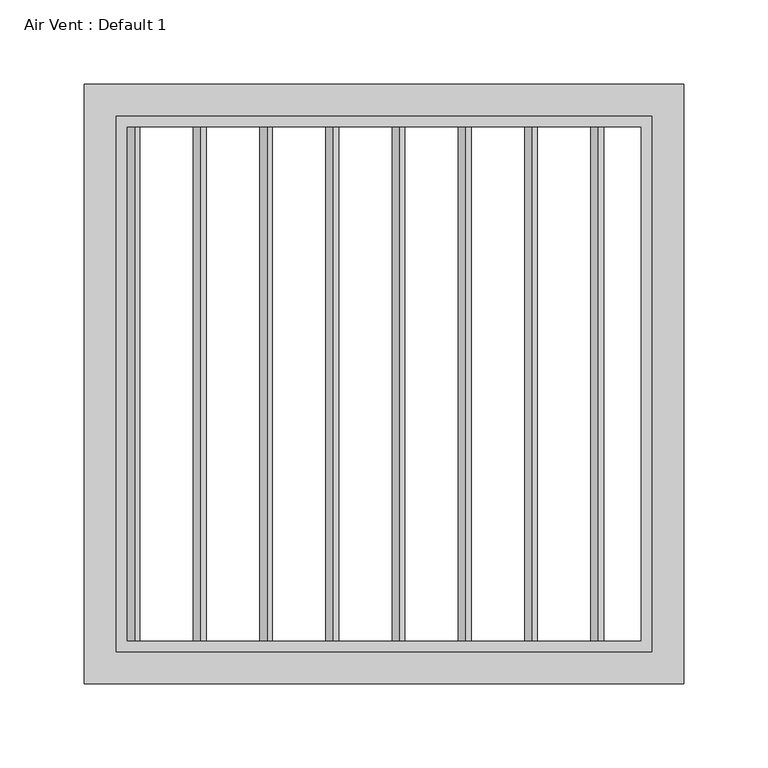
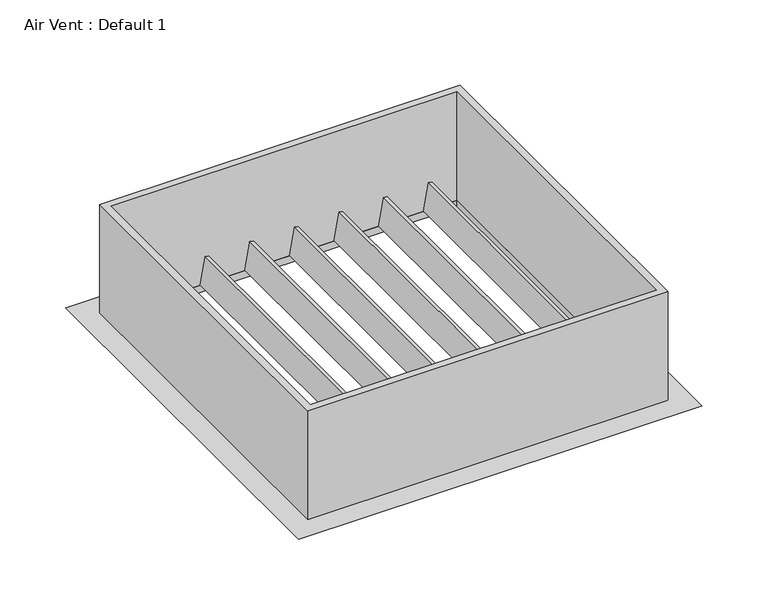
"""IFC4 building model written with IfcOpenShell, lengths in millimetres: proxy geometry, Air Vent : Default 1."""

from ifc_helpers import new_model, si_unit, frame, origin, place, context, project, spatial, polyline, outline, extrude, faceted_brep, source, transform, mapped, element, save


def air_vent_default_1_fc0a5ae6(model_context):
    return source(origin(), model_context, "Body", "SolidModel", [
        extrude(outline(polyline([(0.0, -3.1750001), (0.0, 0.0), (304.8, 0.0), (304.8, -3.1750001), (0.0, -3.1750001)])), frame((-113.0846578, -152.4, 2438.951333), z_axis=(0.1736481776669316, 0.0, 0.9848077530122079), x_axis=(0.0, 1.0, 0.0)), (0.0, 0.0, 1.0), 25.4),
        extrude(outline(polyline([(0.0, -3.175), (0.0, 0.0), (304.8, 0.0), (304.8, -3.175), (0.0, -3.175)])), frame((-73.7693155, -152.4, 2438.951333), z_axis=(0.1736481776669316, 0.0, 0.9848077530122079), x_axis=(0.0, 1.0, 0.0)), (0.0, 0.0, 1.0), 25.4),
        extrude(outline(polyline([(0.0, -3.175), (0.0, 0.0), (304.8, 0.0), (304.8, -3.175), (0.0, -3.175)])), frame((-34.4539733, -152.4, 2438.951333), z_axis=(0.1736481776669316, 0.0, 0.9848077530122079), x_axis=(0.0, 1.0, 0.0)), (0.0, 0.0, 1.0), 25.4),
        extrude(outline(polyline([(0.0, -3.175), (0.0, 0.0), (304.8, 0.0), (304.8, -3.175), (0.0, -3.175)])), frame((4.861369, -152.4, 2438.951333), z_axis=(0.1736481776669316, 0.0, 0.9848077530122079), x_axis=(0.0, 1.0, 0.0)), (0.0, 0.0, 1.0), 25.4),
        extrude(outline(polyline([(0.0, -3.175), (0.0, 0.0), (304.8, 0.0), (304.8, -3.175), (0.0, -3.175)])), frame((44.1767112, -152.4, 2438.951333), z_axis=(0.1736481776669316, 0.0, 0.9848077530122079), x_axis=(0.0, 1.0, 0.0)), (0.0, 0.0, 1.0), 25.4),
        extrude(outline(polyline([(0.0, -3.175), (0.0, 0.0), (304.8, 0.0), (304.8, -3.175), (0.0, -3.175)])), frame((83.4920535, -152.4, 2438.951333), z_axis=(0.1736481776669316, 0.0, 0.9848077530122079), x_axis=(0.0, 1.0, 0.0)), (0.0, 0.0, 1.0), 25.4),
        extrude(outline(polyline([(0.0, -3.175), (0.0, 0.0), (304.8, 0.0), (304.8, -3.175), (0.0, -3.175)])), frame((122.8073957, -152.4, 2438.951333), z_axis=(0.1736481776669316, 0.0, 0.9848077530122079), x_axis=(0.0, 1.0, 0.0)), (0.0, 0.0, 1.0), 25.4),
        extrude(outline(polyline([(0.0, -3.175), (0.0, 0.0), (304.8, 0.0), (304.8, -3.175), (0.0, -3.175)])), frame((-152.4, -152.4, 2438.951333), z_axis=(0.1736481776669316, 0.0, 0.9848077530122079), x_axis=(0.0, 1.0, 0.0)), (0.0, 0.0, 1.0), 25.4),
        faceted_brep([(152.4, 152.4, 2438.4), (152.4, 152.4, 2432.05), (152.4, -152.4, 2432.05), (152.4, -152.4, 2438.4), (-152.4, -152.4, 2432.05), (-152.4, -152.4, 2438.4), (-152.4, 152.4, 2432.05), (-152.4, 152.4, 2438.4), (165.1, -165.1, 2432.05), (-165.1, -165.1, 2432.05), (-165.1, 165.1, 2432.05), (165.1, 165.1, 2432.05), (177.8, 177.8, 2438.4), (-177.8, 177.8, 2438.4), (-177.8, -177.8, 2438.4), (177.8, -177.8, 2438.4)], [[[0, 1, 2, 3]], [[3, 2, 4, 5]], [[5, 4, 6, 7]], [[8, 9, 10, 11], [1, 6, 4, 2]], [[12, 13, 14, 15], [3, 5, 7, 0]], [[7, 6, 1, 0]], [[11, 12, 15, 8]], [[8, 15, 14, 9]], [[9, 14, 13, 10]], [[10, 13, 12, 11]]]),
        extrude(outline(polyline([(158.75, 158.75), (158.75, -158.75), (-158.75, -158.75), (-158.75, 158.75), (158.75, 158.75)]), holes=[polyline([(152.4, 152.4), (-152.4, 152.4), (-152.4, -152.4), (152.4, -152.4), (152.4, 152.4)])]), frame((0.0, 0.0, 2438.4), z_axis=(0.0, 0.0, 1.0), x_axis=(1.0, 0.0, 0.0)), (0.0, 0.0, 1.0), 101.6),
    ])


if __name__ == "__main__":
    model = new_model("IFC4")
    model_context = context("Model", 3, world=origin())
    ifc_project = project(units=[si_unit("LENGTHUNIT", "METRE", prefix="MILLI")], contexts=[model_context])
    site = spatial("IfcSite", under=ifc_project)
    building = spatial("IfcBuilding", under=site)
    placement = place(None, origin())
    air_vent_default_1_shape = air_vent_default_1_fc0a5ae6(model_context)
    element("IfcBuildingElementProxy", 1, Name="Air Vent : Default 1", ObjectType="Air Vent : Default 1", at=placement, inside=building, context=model_context, shape_type="MappedRepresentation", body=[
        mapped(air_vent_default_1_shape, transform((0.0, 0.0, 0.0), x_axis=(1.0, 0.0, 0.0), y_axis=(0.0, 1.0, 0.0), z_axis=(0.0, 0.0, 1.0))),
    ])
    save(model, "model.ifc")
